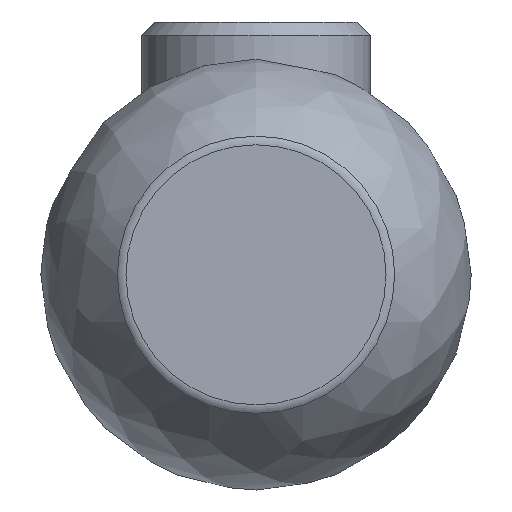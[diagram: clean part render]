
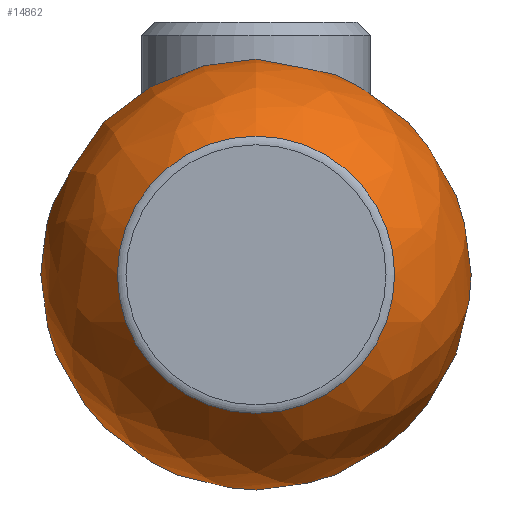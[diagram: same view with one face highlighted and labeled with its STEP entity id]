
A CAD part, left-side view. The second image highlights one B-rep face of the part: STEP entity #14862.
In plain terms, the highlighted free-form (B-spline) face has degree [2, 2] with [5, 9] control points.
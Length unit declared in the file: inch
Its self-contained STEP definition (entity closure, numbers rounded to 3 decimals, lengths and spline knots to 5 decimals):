
#28=(
BOUNDED_CURVE()
B_SPLINE_CURVE(2,(#35888,#35889,#35890,#35891,#35892),.UNSPECIFIED.,.F.,
 .F.)
B_SPLINE_CURVE_WITH_KNOTS((3,2,3),(-0.99285,-0.05928,
0.8743),.UNSPECIFIED.)
CURVE()
GEOMETRIC_REPRESENTATION_ITEM()
RATIONAL_B_SPLINE_CURVE((1.,0.893,1.,0.893,1.))
REPRESENTATION_ITEM('')
);
#29=(
BOUNDED_SURFACE()
B_SPLINE_SURFACE(2,2,((#35839,#35840,#35841,#35842,#35843,#35844,#35845,
#35846,#35847),(#35848,#35849,#35850,#35851,#35852,#35853,#35854,#35855,
#35856),(#35857,#35858,#35859,#35860,#35861,#35862,#35863,#35864,#35865),
(#35866,#35867,#35868,#35869,#35870,#35871,#35872,#35873,#35874),(#35875,
#35876,#35877,#35878,#35879,#35880,#35881,#35882,#35883)),.UNSPECIFIED.,
 .F.,.T.,.F.)
B_SPLINE_SURFACE_WITH_KNOTS((3,2,3),(3,2,2,2,3),(-0.8743,0.05928,
0.99285),(-3.14159,-1.5708,0.,1.5708,
3.14159),.UNSPECIFIED.)
GEOMETRIC_REPRESENTATION_ITEM()
RATIONAL_B_SPLINE_SURFACE(((1.,0.707,1.,0.707,1.,
0.707,1.,0.707,1.),(0.893,0.631,
0.893,0.631,0.893,0.631,
0.893,0.631,0.893),(1.,0.707,
1.,0.707,1.,0.707,1.,0.707,1.),(0.893,
0.631,0.893,0.631,0.893,
0.631,0.893,0.631,0.893),
(1.,0.707,1.,0.707,1.,0.707,1.,0.707,
1.)))
REPRESENTATION_ITEM('')
SURFACE()
);
#1659=FACE_OUTER_BOUND('',#2558,.T.);
#2558=EDGE_LOOP('',(#13860,#13861,#13862,#13863,#13864,#13865));
#5043=CIRCLE('',#15663,0.30982);
#5044=CIRCLE('',#15664,0.30982);
#5045=CIRCLE('',#15665,0.26413);
#5046=CIRCLE('',#15666,0.26413);
#7296=VERTEX_POINT('',#35835);
#7297=VERTEX_POINT('',#35836);
#7298=VERTEX_POINT('',#35884);
#7299=VERTEX_POINT('',#35885);
#9492=EDGE_CURVE('',#7296,#7297,#5043,.T.);
#9493=EDGE_CURVE('',#7297,#7296,#5044,.T.);
#9494=EDGE_CURVE('',#7298,#7299,#5045,.T.);
#9495=EDGE_CURVE('',#7299,#7298,#5046,.T.);
#9496=EDGE_CURVE('',#7299,#7297,#28,.T.);
#13860=ORIENTED_EDGE('',*,*,#9494,.F.);
#13861=ORIENTED_EDGE('',*,*,#9495,.F.);
#13862=ORIENTED_EDGE('',*,*,#9496,.T.);
#13863=ORIENTED_EDGE('',*,*,#9493,.T.);
#13864=ORIENTED_EDGE('',*,*,#9492,.T.);
#13865=ORIENTED_EDGE('',*,*,#9496,.F.);
#14862=ADVANCED_FACE('',(#1659),#29,.F.);
#15663=AXIS2_PLACEMENT_3D('',#35837,#18219,#18220);
#15664=AXIS2_PLACEMENT_3D('',#35838,#18221,#18222);
#15665=AXIS2_PLACEMENT_3D('',#35886,#18223,#18224);
#15666=AXIS2_PLACEMENT_3D('',#35887,#18225,#18226);
#18219=DIRECTION('center_axis',(1.,0.,0.));
#18220=DIRECTION('ref_axis',(0.,1.,0.));
#18221=DIRECTION('center_axis',(1.,0.,0.));
#18222=DIRECTION('ref_axis',(0.,1.,0.));
#18223=DIRECTION('center_axis',(1.,0.,0.));
#18224=DIRECTION('ref_axis',(0.,1.,0.));
#18225=DIRECTION('center_axis',(1.,0.,0.));
#18226=DIRECTION('ref_axis',(0.,1.,0.));
#35835=CARTESIAN_POINT('',(-2.47489,38.39552,0.));
#35836=CARTESIAN_POINT('',(-2.47489,38.0857,0.30982));
#35837=CARTESIAN_POINT('Origin',(-2.47489,38.0857,0.));
#35838=CARTESIAN_POINT('Origin',(-2.47489,38.0857,0.));
#35839=CARTESIAN_POINT('Ctrl Pts',(-2.47489,38.0857,0.30982));
#35840=CARTESIAN_POINT('Ctrl Pts',(-2.47489,37.77588,0.30982));
#35841=CARTESIAN_POINT('Ctrl Pts',(-2.47489,37.77588,0.));
#35842=CARTESIAN_POINT('Ctrl Pts',(-2.47489,37.77588,-0.30982));
#35843=CARTESIAN_POINT('Ctrl Pts',(-2.47489,38.0857,-0.30982));
#35844=CARTESIAN_POINT('Ctrl Pts',(-2.47489,38.39552,-0.30982));
#35845=CARTESIAN_POINT('Ctrl Pts',(-2.47489,38.39552,0.));
#35846=CARTESIAN_POINT('Ctrl Pts',(-2.47489,38.39552,0.30982));
#35847=CARTESIAN_POINT('Ctrl Pts',(-2.47489,38.0857,0.30982));
#35848=CARTESIAN_POINT('Ctrl Pts',(-2.3198,38.0857,0.49527));
#35849=CARTESIAN_POINT('Ctrl Pts',(-2.3198,37.59043,0.49527));
#35850=CARTESIAN_POINT('Ctrl Pts',(-2.3198,37.59043,0.));
#35851=CARTESIAN_POINT('Ctrl Pts',(-2.3198,37.59043,-0.49527));
#35852=CARTESIAN_POINT('Ctrl Pts',(-2.3198,38.0857,-0.49527));
#35853=CARTESIAN_POINT('Ctrl Pts',(-2.3198,38.58097,-0.49527));
#35854=CARTESIAN_POINT('Ctrl Pts',(-2.3198,38.58097,0.));
#35855=CARTESIAN_POINT('Ctrl Pts',(-2.3198,38.58097,0.49527));
#35856=CARTESIAN_POINT('Ctrl Pts',(-2.3198,38.0857,0.49527));
#35857=CARTESIAN_POINT('Ctrl Pts',(-2.07846,38.0857,0.48095));
#35858=CARTESIAN_POINT('Ctrl Pts',(-2.07846,37.60475,0.48095));
#35859=CARTESIAN_POINT('Ctrl Pts',(-2.07846,37.60475,0.));
#35860=CARTESIAN_POINT('Ctrl Pts',(-2.07846,37.60475,-0.48095));
#35861=CARTESIAN_POINT('Ctrl Pts',(-2.07846,38.0857,-0.48095));
#35862=CARTESIAN_POINT('Ctrl Pts',(-2.07846,38.56665,-0.48095));
#35863=CARTESIAN_POINT('Ctrl Pts',(-2.07846,38.56665,0.));
#35864=CARTESIAN_POINT('Ctrl Pts',(-2.07846,38.56665,0.48095));
#35865=CARTESIAN_POINT('Ctrl Pts',(-2.07846,38.0857,0.48095));
#35866=CARTESIAN_POINT('Ctrl Pts',(-1.83712,38.0857,0.46663));
#35867=CARTESIAN_POINT('Ctrl Pts',(-1.83712,37.61907,0.46663));
#35868=CARTESIAN_POINT('Ctrl Pts',(-1.83712,37.61907,0.));
#35869=CARTESIAN_POINT('Ctrl Pts',(-1.83712,37.61907,-0.46663));
#35870=CARTESIAN_POINT('Ctrl Pts',(-1.83712,38.0857,-0.46663));
#35871=CARTESIAN_POINT('Ctrl Pts',(-1.83712,38.55232,-0.46663));
#35872=CARTESIAN_POINT('Ctrl Pts',(-1.83712,38.55232,0.));
#35873=CARTESIAN_POINT('Ctrl Pts',(-1.83712,38.55232,0.46663));
#35874=CARTESIAN_POINT('Ctrl Pts',(-1.83712,38.0857,0.46663));
#35875=CARTESIAN_POINT('Ctrl Pts',(-1.70505,38.0857,0.26413));
#35876=CARTESIAN_POINT('Ctrl Pts',(-1.70505,37.82157,0.26413));
#35877=CARTESIAN_POINT('Ctrl Pts',(-1.70505,37.82157,0.));
#35878=CARTESIAN_POINT('Ctrl Pts',(-1.70505,37.82157,-0.26413));
#35879=CARTESIAN_POINT('Ctrl Pts',(-1.70505,38.0857,-0.26413));
#35880=CARTESIAN_POINT('Ctrl Pts',(-1.70505,38.34983,-0.26413));
#35881=CARTESIAN_POINT('Ctrl Pts',(-1.70505,38.34983,0.));
#35882=CARTESIAN_POINT('Ctrl Pts',(-1.70505,38.34983,0.26413));
#35883=CARTESIAN_POINT('Ctrl Pts',(-1.70505,38.0857,0.26413));
#35884=CARTESIAN_POINT('',(-1.70505,38.34983,0.));
#35885=CARTESIAN_POINT('',(-1.70505,38.0857,0.26413));
#35886=CARTESIAN_POINT('Origin',(-1.70505,38.0857,0.));
#35887=CARTESIAN_POINT('Origin',(-1.70505,38.0857,0.));
#35888=CARTESIAN_POINT('Ctrl Pts',(-1.70505,38.0857,0.26413));
#35889=CARTESIAN_POINT('Ctrl Pts',(-1.83712,38.0857,0.46663));
#35890=CARTESIAN_POINT('Ctrl Pts',(-2.07846,38.0857,0.48095));
#35891=CARTESIAN_POINT('Ctrl Pts',(-2.3198,38.0857,0.49527));
#35892=CARTESIAN_POINT('Ctrl Pts',(-2.47489,38.0857,0.30982));
